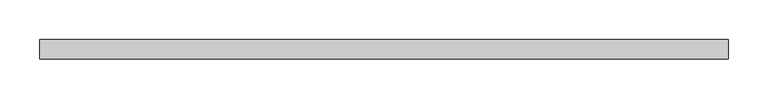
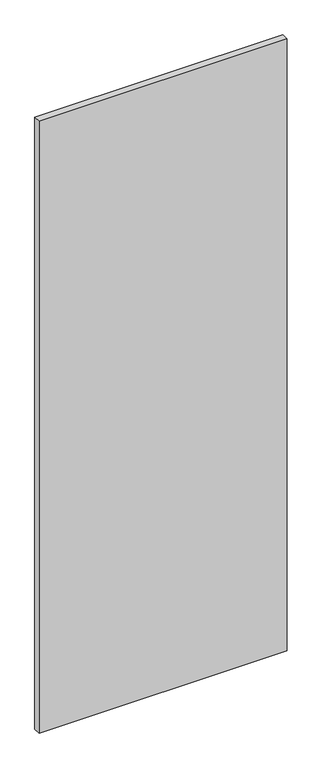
"""IFC4 building model written with IfcOpenShell, lengths in millimetres: plate geometry, 系统嵌板 : 玻璃."""

from ifc_helpers import new_model, si_unit, origin, origin_with_axes, place, context, project, spatial, polyline, outline, extrude, source, transform, mapped, element, save


def plate_ef581a69(model_context):
    return source(origin(), model_context, "Body", "SweptSolid", [
        extrude(outline(polyline([(435.8333333, -12.5), (-435.8333333, -12.5), (-435.8333333, 12.5), (435.8333333, 12.5), (435.8333333, -12.5)])), origin_with_axes(), (0.0, 0.0, 1.0), 2270.0),
    ])


if __name__ == "__main__":
    model = new_model("IFC4")
    model_context = context("Model", 3, world=origin())
    ifc_project = project(units=[si_unit("LENGTHUNIT", "METRE", prefix="MILLI")], contexts=[model_context])
    site = spatial("IfcSite", under=ifc_project)
    building = spatial("IfcBuilding", under=site)
    placement = place(None, origin())
    plate_shape = plate_ef581a69(model_context)
    element("IfcPlate", 1, ObjectType="系统嵌板 : 玻璃", at=placement, inside=building, context=model_context, shape_type="MappedRepresentation", body=[
        mapped(plate_shape, transform((0.0, 0.0, 0.0), x_axis=(1.0, 0.0, 0.0), y_axis=(0.0, 1.0, 0.0), z_axis=(0.0, 0.0, 1.0))),
    ])
    save(model, "model.ifc")
